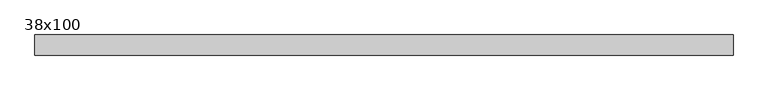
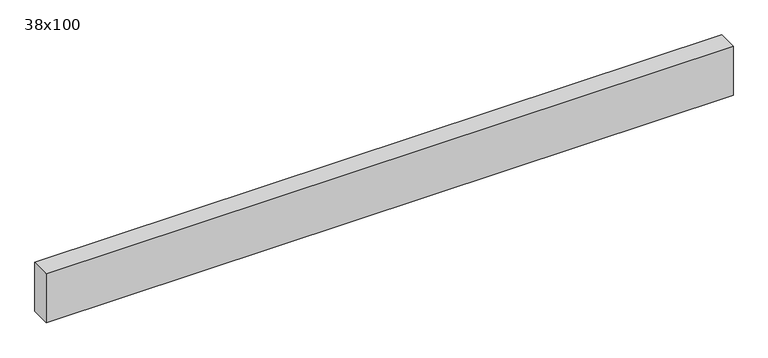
"""IFC4 building model written with IfcOpenShell, lengths in millimetres: beam geometry, Poutre - Bois de construction de dimensions courantes : 38x100."""

import ifcopenshell
import ifcopenshell.guid

model = None  # the IFC model being written
_history = None  # IfcOwnerHistory: only IFC2X3 demands one
_inside = {}  # id of a spatial element -> (the spatial element, [elements in it])
_under = {}  # id of a project, library or spatial element -> (it, [spatial elements below it])
_declared = {}  # id of a project -> (the project, [libraries it declares])
_typed = {}  # id of a type object -> (the type object, [elements of that type])
_made_of = {}  # id of a material, layer set ... -> (it, [elements and type objects made of it])


def new_model(schema):
    """Start an empty IFC model of exactly this schema.

    Asked for "IFC4X3", IfcOpenShell would pick the latest addendum, in which some entities
    have other attributes; the version numbers below select the first issue.
    IFC2X3 requires an IfcOwnerHistory on every rooted entity: one is made here for all.
    """
    global model, _history
    if schema == "IFC4X3":
        model = ifcopenshell.file(schema_version=(4, 3, 0, 0))
    else:
        model = ifcopenshell.file(schema=schema)
    _inside.clear()
    _under.clear()
    _declared.clear()
    _typed.clear()
    _made_of.clear()
    _history = None
    if model.schema == "IFC2X3":
        org = make("IfcOrganization", Name="unknown")
        user = make(
            "IfcPersonAndOrganization",
            ThePerson=make("IfcPerson", FamilyName="unknown"),
            TheOrganization=org,
        )
        app = make(
            "IfcApplication",
            ApplicationDeveloper=org,
            Version="unknown",
            ApplicationFullName="unknown",
            ApplicationIdentifier="unknown",
        )
        _history = make(
            "IfcOwnerHistory",
            OwningUser=user,
            OwningApplication=app,
            ChangeAction="ADDED",
            CreationDate=0,
        )
    return model


def make(cls, **values):
    """One entity of the class cls with the attributes given. An attribute that is None is left unset."""
    return model.create_entity(
        cls, **{name: value for name, value in values.items() if value is not None}
    )


def rooted(cls, **values):
    """An entity with a GlobalId (a new one), such as an element, a storey or a relation."""
    return make(cls, GlobalId=ifcopenshell.guid.new(), OwnerHistory=_history, **values)


def si_unit(unit_type, name, prefix=None):
    """IfcSIUnit, for example si_unit("LENGTHUNIT", "METRE", prefix="MILLI")."""
    return make("IfcSIUnit", UnitType=unit_type, Prefix=prefix, Name=name)


def assignment(units):
    """IfcUnitAssignment: the units of a project."""
    return None if units is None else make("IfcUnitAssignment", Units=units)


def point(xyz):
    """IfcCartesianPoint."""
    return None if xyz is None else make("IfcCartesianPoint", Coordinates=xyz)


def direction(xyz):
    """IfcDirection."""
    return None if xyz is None else make("IfcDirection", DirectionRatios=xyz)


def frame(location, z_axis=None, x_axis=None):
    """IfcAxis2Placement3D, a coordinate frame: its origin and axes. An axis left out is left unset."""
    return make(
        "IfcAxis2Placement3D",
        Location=point(location),
        Axis=direction(z_axis),
        RefDirection=direction(x_axis),
    )


def origin():
    """The frame at (0, 0, 0) with its axes left unset."""
    return frame((0.0, 0.0, 0.0))


def place(relative_to, where):
    """IfcLocalPlacement: puts the frame where relative to a parent placement (None: the world)."""
    return make(
        "IfcLocalPlacement", PlacementRelTo=relative_to, RelativePlacement=where
    )


def context(
    kind, dimensions, precision=None, world=None, true_north=None, identifier=None
):
    """IfcGeometricRepresentationContext, for example the 3D "Model" context."""
    return make(
        "IfcGeometricRepresentationContext",
        ContextIdentifier=identifier,
        ContextType=kind,
        CoordinateSpaceDimension=dimensions,
        Precision=precision,
        WorldCoordinateSystem=world,
        TrueNorth=true_north,
    )


def project(units=None, contexts=None):
    """IfcProject with its units and contexts."""
    return rooted(
        "IfcProject",
        Name="project",
        RepresentationContexts=contexts,
        UnitsInContext=assignment(units),
    )


def spatial(cls, under=None, at=None, **own):
    """A site, building, storey or space (cls), placed at a placement, below another one or the project."""
    s = rooted(cls, ObjectPlacement=at, **own)
    if under is not None:
        _under.setdefault(under.id(), (under, []))[1].append(s)
    return s


def polyline(points):
    """IfcPolyline through the points."""
    return make("IfcPolyline", Points=[point(p) for p in points])


def outline(outer, holes=None, kind="AREA"):
    """IfcArbitraryClosedProfileDef: a profile drawn as a closed curve; with holes, ...WithVoids."""
    if holes is None:
        return make("IfcArbitraryClosedProfileDef", ProfileType=kind, OuterCurve=outer)
    return make(
        "IfcArbitraryProfileDefWithVoids",
        ProfileType=kind,
        OuterCurve=outer,
        InnerCurves=holes,
    )


def extrude(swept, where, along, depth):
    """IfcExtrudedAreaSolid: the profile swept, set in the frame where, extruded along a direction by depth."""
    return make(
        "IfcExtrudedAreaSolid",
        SweptArea=swept,
        Position=where,
        ExtrudedDirection=direction(along),
        Depth=depth,
    )


def shape(context_of_items, identifier, shape_type, items):
    """IfcShapeRepresentation: the items that make up one representation, for example the "Body"."""
    return make(
        "IfcShapeRepresentation",
        ContextOfItems=context_of_items,
        RepresentationIdentifier=identifier,
        RepresentationType=shape_type,
        Items=items,
    )


def source(mapping_origin, context_of_items, identifier, shape_type, items):
    """IfcRepresentationMap: a shape defined once, which mapped items show again and again."""
    return make(
        "IfcRepresentationMap",
        MappingOrigin=mapping_origin,
        MappedRepresentation=shape(context_of_items, identifier, shape_type, items),
    )


def transform(
    local_origin,
    x_axis=None,
    y_axis=None,
    z_axis=None,
    scale=None,
    scale2=None,
    scale3=None,
    uniform=True,
):
    """IfcCartesianTransformationOperator3D, or its non-uniform kind. x_axis, y_axis, z_axis: its Axis1, 2, 3."""
    if uniform:
        return make(
            "IfcCartesianTransformationOperator3D",
            Axis1=direction(x_axis),
            Axis2=direction(y_axis),
            LocalOrigin=point(local_origin),
            Scale=scale,
            Axis3=direction(z_axis),
        )
    return make(
        "IfcCartesianTransformationOperator3DnonUniform",
        Axis1=direction(x_axis),
        Axis2=direction(y_axis),
        LocalOrigin=point(local_origin),
        Scale=scale,
        Axis3=direction(z_axis),
        Scale2=scale2,
        Scale3=scale3,
    )


def mapped(mapping_source, mapping_target):
    """IfcMappedItem: shows the shape of a source again, moved by a transform."""
    return make(
        "IfcMappedItem", MappingSource=mapping_source, MappingTarget=mapping_target
    )


def made_of(thing, what):
    """Note that an element or type object is made of a material, layer set ...; save() writes the relation."""
    if what is not None:
        _made_of.setdefault(what.id(), (what, []))[1].append(thing)
    return thing


def element(
    cls,
    number,
    at=None,
    inside=None,
    cuts=None,
    type_object=None,
    material=None,
    context=None,
    identifier="Body",
    shape_type=None,
    held_by="IfcProductDefinitionShape",
    body=None,
    shapes=None,
    **own,
):
    """One element of the class cls, such as IfcWall. Its Tag is "e" and its number.

    at: its placement. inside: the storey or other place that contains it. cuts: it is an
    opening in that element (IfcRelVoidsElement). A single representation is given by context,
    identifier, shape_type and body (its items); several are given by shapes. held_by: the class
    of the entity that holds the representations. save() writes the other relations.
    """
    e = rooted(cls, Tag="e%d" % number, ObjectPlacement=at, **own)
    if body is not None:
        shapes = [shape(context, identifier, shape_type, body)]
    if shapes is not None:
        e.Representation = make(held_by, Representations=shapes)
    if inside is not None:
        _inside.setdefault(inside.id(), (inside, []))[1].append(e)
    if cuts is not None:
        rooted(
            "IfcRelVoidsElement", RelatingBuildingElement=cuts, RelatedOpeningElement=e
        )
    if type_object is not None:
        _typed.setdefault(type_object.id(), (type_object, []))[1].append(e)
    return made_of(e, material)


def aggregate(whole, parts):
    """IfcRelAggregates: a whole, such as a stair, and the parts it consists of."""
    return rooted("IfcRelAggregates", RelatingObject=whole, RelatedObjects=parts)


def save(model, path):
    """Write the relations noted so far, then the file.

    IfcRelAggregates (storeys below a building ...), IfcRelContainedInSpatialStructure (elements
    in a storey), IfcRelDefinesByType, IfcRelAssociatesMaterial and IfcRelDeclares: one each for
    every whole, place, type object, material and project.
    """
    for whole, parts in _under.values():
        aggregate(whole, parts)
    for where, things in _inside.values():
        rooted(
            "IfcRelContainedInSpatialStructure",
            RelatedElements=things,
            RelatingStructure=where,
        )
    for kind, things in _typed.values():
        rooted("IfcRelDefinesByType", RelatedObjects=things, RelatingType=kind)
    for what, things in _made_of.values():
        rooted("IfcRelAssociatesMaterial", RelatedObjects=things, RelatingMaterial=what)
    for by, libraries in _declared.values():
        rooted("IfcRelDeclares", RelatingContext=by, RelatedDefinitions=libraries)
    model.write(path)


def beam_38x100_afadce23(model_context):
    return source(origin(), model_context, "Body", "SweptSolid", [
        extrude(outline(polyline([(612.0, 19.05), (612.0, -19.05), (-712.0, -19.05), (-712.0, 19.05), (612.0, 19.05)])), frame((0.0, 0.0, -50.0), z_axis=(0.0, 0.0, 1.0), x_axis=(1.0, 0.0, 0.0)), (0.0, 0.0, 1.0), 100.0),
    ])


if __name__ == "__main__":
    model = new_model("IFC4")
    model_context = context("Model", 3, world=origin())
    ifc_project = project(units=[si_unit("LENGTHUNIT", "METRE", prefix="MILLI")], contexts=[model_context])
    site = spatial("IfcSite", under=ifc_project)
    building = spatial("IfcBuilding", under=site)
    placement = place(None, origin())
    beam_38x100_shape = beam_38x100_afadce23(model_context)
    element("IfcBeam", 1, ObjectType="Poutre - Bois de construction de dimensions courantes : 38x100", at=placement, inside=building, context=model_context, shape_type="MappedRepresentation", body=[
        mapped(beam_38x100_shape, transform((0.0, 0.0, 0.0), x_axis=(1.0, 0.0, 0.0), y_axis=(0.0, 1.0, 0.0), z_axis=(0.0, 0.0, 1.0))),
    ])
    save(model, "model.ifc")
